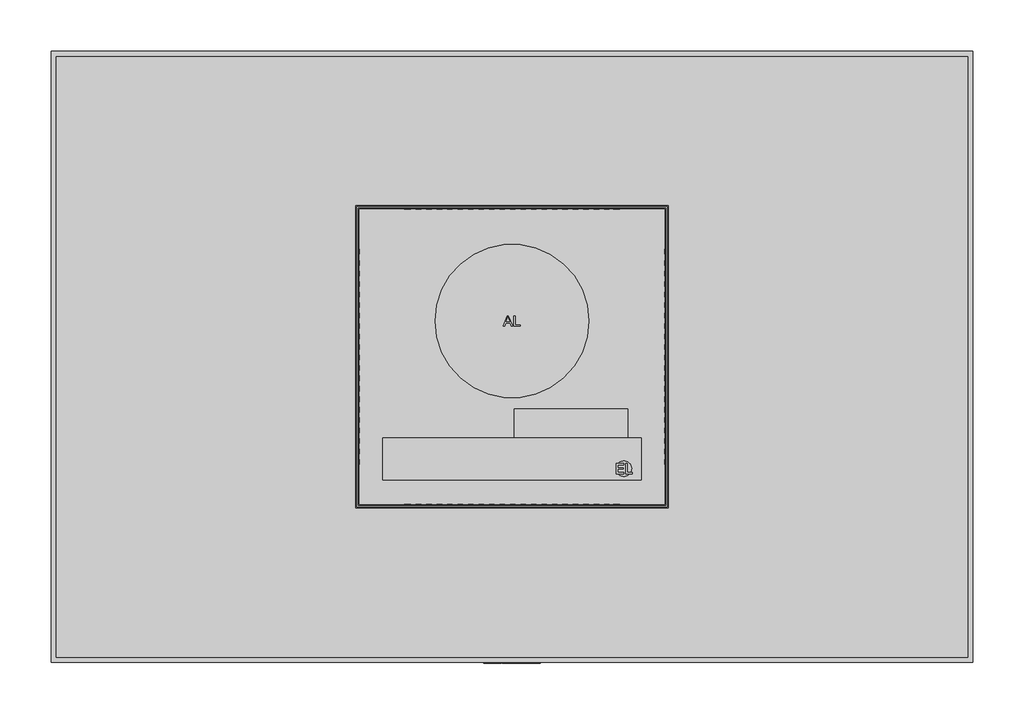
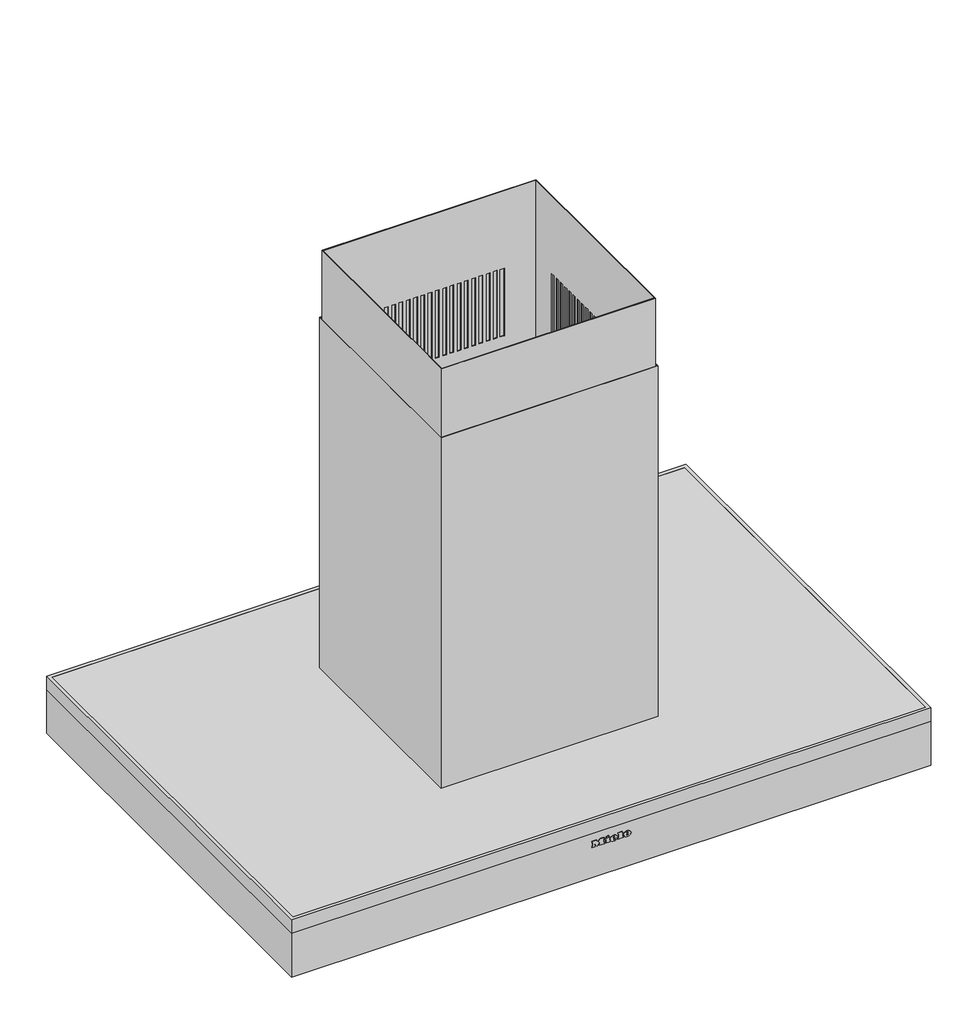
# Not in any storey: 1 proxy.
"""IFC4 building model written with IfcOpenShell, lengths in millimetres."""

from ifc_helpers import new_model, si_unit, origin, place, context, project, spatial, transform, mapped, element, save
from components import specialty_equipment_54c93880, specialty_equipment_49d794b4

model = new_model("IFC4")

# Units and contexts
model_context = context("Model", 3, world=origin())
ifc_project = project(units=[si_unit("LENGTHUNIT", "METRE", prefix="MILLI")], contexts=[model_context])

# Site, building
site = spatial("IfcSite", under=ifc_project)
building = spatial("IfcBuilding", under=site)

# Proxy
placement = place(None, origin())
specialty_equipment_shape = specialty_equipment_54c93880(model_context)
specialty_equipment_2_shape = specialty_equipment_49d794b4(model_context)
element("IfcBuildingElementProxy", 1, Name="12308770_UA_DA6698D_EDST : 28669855_UA_12308770_DA6698D_EDST", ObjectType="12308770_UA_DA6698D_EDST : 28669855_UA_12308770_DA6698D_EDST", at=placement, inside=building, context=model_context, shape_type="MappedRepresentation", body=[
    mapped(specialty_equipment_shape, transform((0.0, 0.0, 0.0), x_axis=(1.0, 0.0, 0.0), y_axis=(0.0, 1.0, 0.0), z_axis=(0.0, 0.0, 1.0))),
    mapped(specialty_equipment_2_shape, transform((0.0, 0.0, 0.0), x_axis=(1.0, 0.0, 0.0), y_axis=(0.0, 1.0, 0.0), z_axis=(0.0, 0.0, 1.0))),
])

save(model, "model.ifc")
